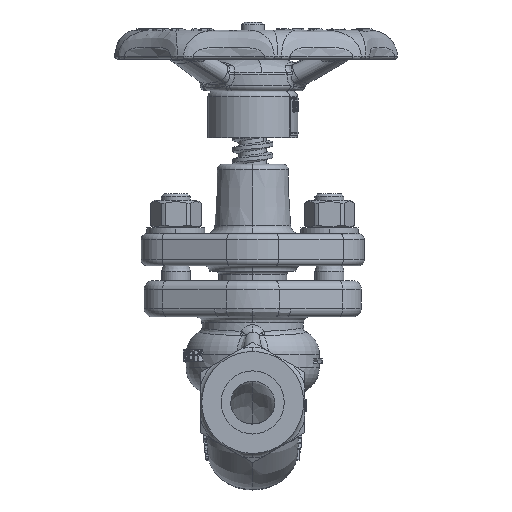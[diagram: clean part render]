
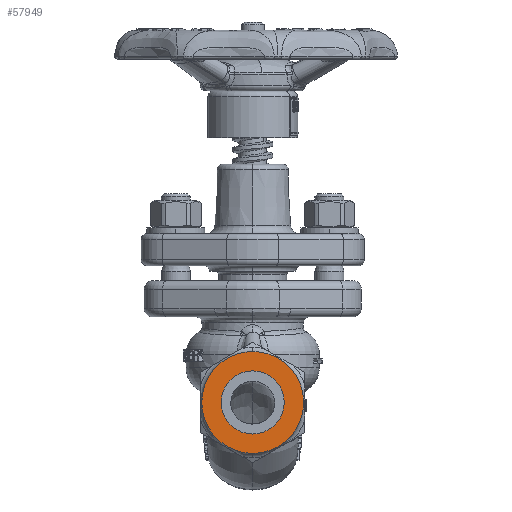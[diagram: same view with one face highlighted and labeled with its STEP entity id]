
A CAD part, left-side view. The second image highlights one B-rep face of the part: STEP entity #57949.
In plain terms, the highlighted planar face has unit normal (-1, 0, 0).
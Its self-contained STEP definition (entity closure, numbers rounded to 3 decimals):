
#9482=CARTESIAN_POINT('',(-50.,0.,0.));
#9483=DIRECTION('',(-1.,0.,0.));
#9484=DIRECTION('',(0.,0.,1.));
#9485=AXIS2_PLACEMENT_3D('',#9482,#9483,#9484);
#9487=CARTESIAN_POINT('',(-50.,0.,0.));
#9488=DIRECTION('',(-1.,0.,0.));
#9489=DIRECTION('',(0.,0.,-1.));
#9490=AXIS2_PLACEMENT_3D('',#9487,#9488,#9489);
#9492=CARTESIAN_POINT('',(-50.,0.,0.));
#9493=DIRECTION('',(-1.,0.,0.));
#9494=DIRECTION('',(0.,0.,-1.));
#9495=AXIS2_PLACEMENT_3D('',#9492,#9493,#9494);
#9562=CARTESIAN_POINT('',(-50.,0.,0.));
#9563=DIRECTION('',(-1.,0.,0.));
#9564=DIRECTION('',(0.,0.,1.));
#9565=AXIS2_PLACEMENT_3D('',#9562,#9563,#9564);
#33374=CARTESIAN_POINT('',(-50.,0.,-17.591));
#33375=CARTESIAN_POINT('',(-50.,0.,17.591));
#33376=VERTEX_POINT('',#33374);
#33377=VERTEX_POINT('',#33375);
#33486=CARTESIAN_POINT('',(-50.,0.,10.9));
#33487=VERTEX_POINT('',#33486);
#33490=CARTESIAN_POINT('',(-50.,0.,-10.9));
#33491=VERTEX_POINT('',#33490);
#57934=CARTESIAN_POINT('',(-50.,0.,0.));
#57935=DIRECTION('',(-1.,0.,0.));
#57936=DIRECTION('',(0.,0.,1.));
#57937=AXIS2_PLACEMENT_3D('',#57934,#57935,#57936);
#57938=PLANE('',#57937);
#57940=ORIENTED_EDGE('',*,*,#57939,.F.);
#57942=ORIENTED_EDGE('',*,*,#57941,.F.);
#57943=EDGE_LOOP('',(#57940,#57942));
#57944=FACE_OUTER_BOUND('',#57943,.F.);
#57945=ORIENTED_EDGE('',*,*,#57929,.T.);
#57946=ORIENTED_EDGE('',*,*,#57913,.T.);
#57947=EDGE_LOOP('',(#57945,#57946));
#57948=FACE_BOUND('',#57947,.F.);
#9486=CIRCLE('',#9485,10.9);
#9491=CIRCLE('',#9490,10.9);
#9496=CIRCLE('',#9495,17.591);
#9566=CIRCLE('',#9565,17.591);
#57913=EDGE_CURVE('',#33491,#33487,#9491,.T.);
#57929=EDGE_CURVE('',#33487,#33491,#9486,.T.);
#57939=EDGE_CURVE('',#33376,#33377,#9496,.T.);
#57941=EDGE_CURVE('',#33377,#33376,#9566,.T.);
#57949=ADVANCED_FACE('',(#57944,#57948),#57938,.T.);
